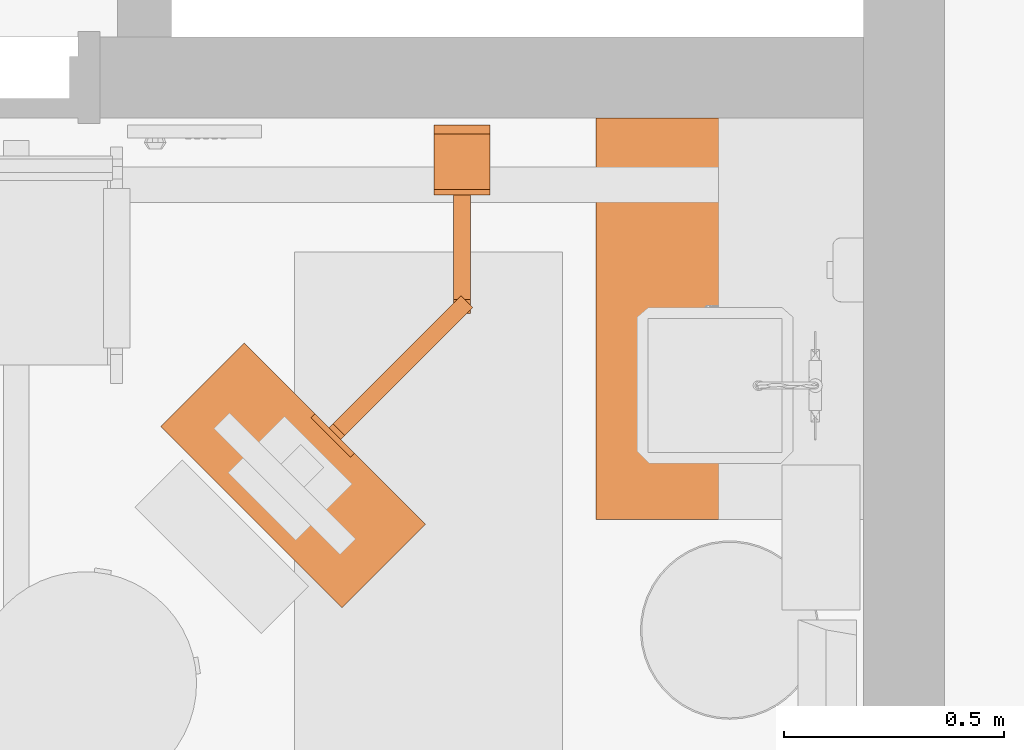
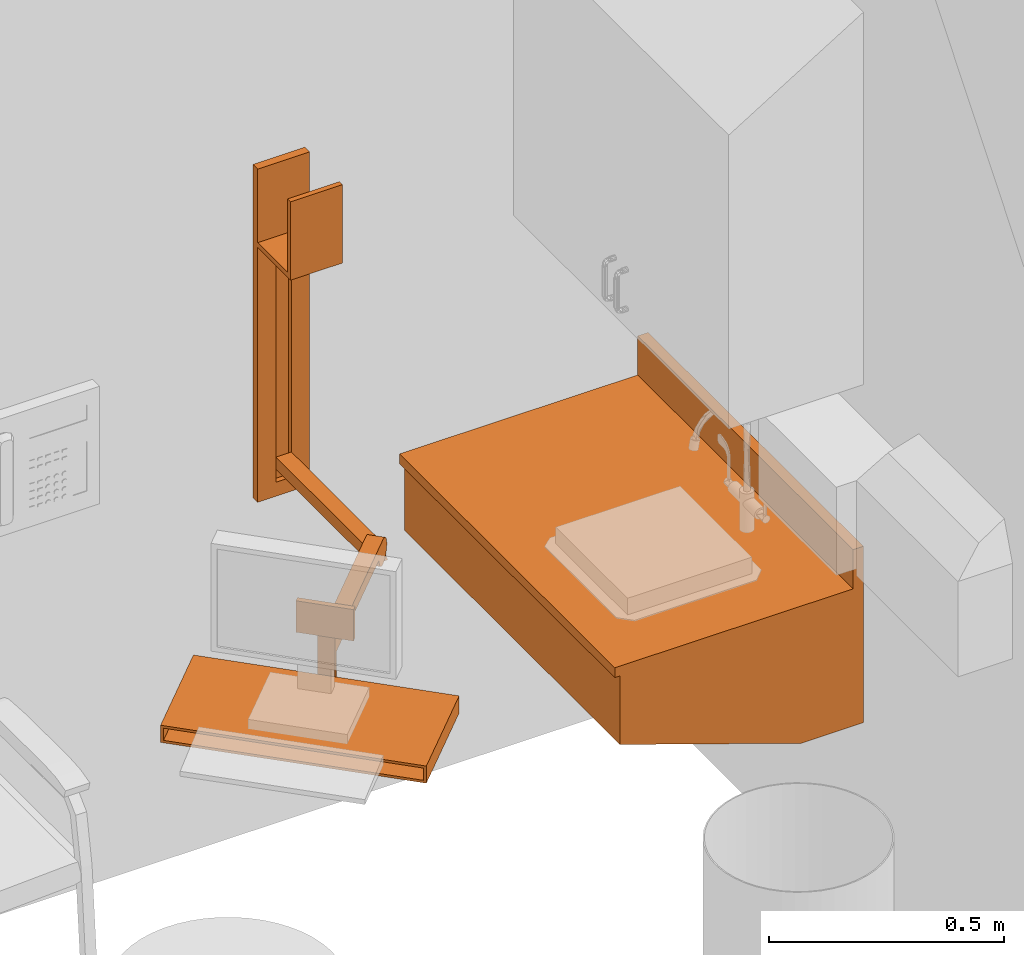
# One storey, part 41 of 142: 2 proxies.
"""IFC2X3 building model written with IfcOpenShell, lengths in feet."""

from ifc_helpers import new_model, entity, si_unit, converted_unit, derived_unit, direction, frame, frame_2d, origin, origin_2d_with_axis, place, context, subcontext, project, spatial, polyline, circle_curve, parameter, trimmed, segment, composite_curve, rectangle, circle, outline, extrude, faceted_brep, source, transform, mapped, type_object, type_shapes, element, save


model = new_model("IFC2X3")

# Units and contexts
model_context = context("Model", 3, precision=0.0001, world=origin(), true_north=direction((6.12303176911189e-17, 1.0)))
body_context = subcontext(model_context, "Body", "Model", "MODEL_VIEW")
ifc_project = project(units=[converted_unit("LENGTHUNIT", "FOOT", entity("IfcRatioMeasure", 0.3048), si_unit("LENGTHUNIT", "METRE"), dimensions=[1, 0, 0, 0, 0, 0, 0]), converted_unit("AREAUNIT", "SQUARE FOOT", entity("IfcRatioMeasure", 0.09290304), si_unit("AREAUNIT", "SQUARE_METRE"), dimensions=[2, 0, 0, 0, 0, 0, 0]), converted_unit("VOLUMEUNIT", "CUBIC FOOT", entity("IfcRatioMeasure", 0.028316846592), si_unit("VOLUMEUNIT", "CUBIC_METRE"), dimensions=[3, 0, 0, 0, 0, 0, 0]), converted_unit("PLANEANGLEUNIT", "DEGREE", entity("IfcRatioMeasure", 0.0174532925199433), si_unit("PLANEANGLEUNIT", "RADIAN"), dimensions=[0, 0, 0, 0, 0, 0, 0]), si_unit("MASSUNIT", "GRAM", prefix="KILO"), derived_unit("MASSDENSITYUNIT", [(si_unit("MASSUNIT", "GRAM", prefix="KILO"), 1), (si_unit("LENGTHUNIT", "METRE"), -3)]), si_unit("TIMEUNIT", "SECOND"), si_unit("FREQUENCYUNIT", "HERTZ"), si_unit("THERMODYNAMICTEMPERATUREUNIT", "DEGREE_CELSIUS"), derived_unit("THERMALTRANSMITTANCEUNIT", [(si_unit("MASSUNIT", "GRAM", prefix="KILO"), 1), (si_unit("THERMODYNAMICTEMPERATUREUNIT", "KELVIN"), -1), (si_unit("TIMEUNIT", "SECOND"), -3)]), derived_unit("VOLUMETRICFLOWRATEUNIT", [(si_unit("LENGTHUNIT", "METRE"), 3), (si_unit("TIMEUNIT", "SECOND"), -1)]), si_unit("ELECTRICCURRENTUNIT", "AMPERE"), si_unit("ELECTRICVOLTAGEUNIT", "VOLT"), si_unit("POWERUNIT", "WATT"), si_unit("FORCEUNIT", "NEWTON"), si_unit("ILLUMINANCEUNIT", "LUX"), si_unit("LUMINOUSFLUXUNIT", "LUMEN"), si_unit("LUMINOUSINTENSITYUNIT", "CANDELA"), derived_unit("USERDEFINED", [(si_unit("MASSUNIT", "GRAM", prefix="KILO"), -1), (si_unit("LENGTHUNIT", "METRE"), -2), (si_unit("TIMEUNIT", "SECOND"), 3), (si_unit("LUMINOUSFLUXUNIT", "LUMEN"), 1)]), derived_unit("LINEARVELOCITYUNIT", [(si_unit("LENGTHUNIT", "METRE"), 1), (si_unit("TIMEUNIT", "SECOND"), -1)]), si_unit("PRESSUREUNIT", "PASCAL"), derived_unit("USERDEFINED", [(si_unit("LENGTHUNIT", "METRE"), -2), (si_unit("MASSUNIT", "GRAM", prefix="KILO"), 1), (si_unit("TIMEUNIT", "SECOND"), -2)])], contexts=[model_context])

# Site, building, storey, space
site_placement = place(None, origin())
site = spatial("IfcSite", under=ifc_project, at=site_placement, Name="Default", CompositionType="ELEMENT")
building_placement = place(site_placement, origin())
building = spatial("IfcBuilding", under=site, at=building_placement, Name="OUTPATIENT / PACT CLINIC (Ch. 265)", CompositionType="ELEMENT")
storey_placement = place(building_placement, origin())
storey = spatial("IfcBuildingStorey", under=building, at=storey_placement, Name="LEVEL 1", CompositionType="ELEMENT", Elevation=0.0)
space_placement = place(storey_placement, origin())
space = spatial("IfcSpace", under=storey, at=space_placement, Name="EXW01", CompositionType="ELEMENT", InteriorOrExteriorSpace="INTERNAL")

# Proxies
building_element_proxy_type_1 = type_object("IfcBuildingElementProxyType", Name="M1803 - Workstation, Computer, Wall Mounted", PredefinedType="NOTDEFINED")
shared_shape_1 = source(origin(), body_context, "Body", "SweptSolid", [
    extrude(circle(Radius=0.104166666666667, at=frame_2d((1.0547118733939e-15, 3.336446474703e-16), x_axis=(1.0, 0.0))), frame((-0.0810226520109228, -1.34888430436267, 0.333333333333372), z_axis=(0.707106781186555, -0.70710678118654, 0.0), x_axis=(0.0, 0.0, 1.0)), (0.0, 0.0, 1.0), 0.125000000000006),
    extrude(outline(composite_curve([segment(polyline([(0.0520833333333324, -0.592708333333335), (0.0520833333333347, 0.644791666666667)]), True, "CONTINUOUS"), segment(polyline([(0.0520833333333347, 0.644791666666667), (-0.0520833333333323, 0.644791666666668)]), True, "CONTINUOUS"), segment(polyline([(-0.0520833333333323, 0.644791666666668), (-0.0520833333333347, -0.696875)]), True, "CONTINUOUS"), segment(trimmed(circle_curve(frame_2d((0.0520833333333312, -0.696875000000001), x_axis=(1.0, 0.0)), 0.104166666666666), [parameter(89.9999999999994)], [parameter(180.0)], True, "PARAMETER"), False, "CONTINUOUS")], self_intersect=False)), frame((-0.0624999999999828, -0.711458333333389, 0.281250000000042), z_axis=(-1.0, 0.0, 0.0), x_axis=(0.0, 0.0, 1.0)), (0.0, 0.0, -1.0), 0.125000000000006),
    extrude(outline(composite_curve([segment(polyline([(0.0520833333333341, -0.651041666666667), (0.0520833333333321, 0.598958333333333)]), True, "CONTINUOUS"), segment(polyline([(0.0520833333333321, 0.598958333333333), (-0.0520833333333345, 0.598958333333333)]), True, "CONTINUOUS"), segment(polyline([(-0.0520833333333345, 0.598958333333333), (-0.0520833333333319, -0.546875)]), True, "CONTINUOUS"), segment(trimmed(circle_curve(frame_2d((-0.0520833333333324, -0.651041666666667), x_axis=(1.0, 0.0)), 0.104166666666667), [parameter(1.01777749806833e-13)], [parameter(90.0000000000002)], True, "PARAMETER"), False, "CONTINUOUS")], self_intersect=False)), frame((-0.452990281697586, -1.89762862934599, 0.385416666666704), z_axis=(0.707106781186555, -0.70710678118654, 0.0), x_axis=(0.0, 0.0, 1.0)), (0.0, 0.0, -1.0), 0.125000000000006),
    extrude(outline(polyline([(-0.0729166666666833, -0.95833333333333), (0.0729166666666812, -0.95833333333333), (0.0729166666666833, 0.95833333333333), (-0.0729166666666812, 0.95833333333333), (-0.0729166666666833, -0.95833333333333)]), holes=[polyline([(-0.05208333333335, -0.937499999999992), (-0.052083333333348, 0.937499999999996), (0.0520833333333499, 0.937499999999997), (0.0520833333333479, -0.937499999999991), (-0.05208333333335, -0.937499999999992)])]), frame((-1.5747857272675, -2.93103572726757, 0.0729166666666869), z_axis=(0.707106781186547, 0.707106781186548, 0.0), x_axis=(0.0, 0.0, -1.0)), (0.0, 0.0, 1.0), 0.883333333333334),
    extrude(rectangle(XDim=0.0666666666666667, YDim=0.416666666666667, at=origin_2d_with_axis()), frame((0.0, -0.0333333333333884, 0.0), z_axis=(0.0, 0.0, 1.0), x_axis=(0.0, 1.0, 0.0)), (0.0, 0.0, 1.0), 0.11949518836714),
    extrude(outline(polyline([(-0.208333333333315, -0.0270833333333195), (-0.0625000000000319, -0.0270833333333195), (-0.0625000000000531, 0.014583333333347), (0.0625000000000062, 0.014583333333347), (0.0625000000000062, -0.0270833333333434), (0.208333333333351, -0.0270833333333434), (0.208333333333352, 0.0395833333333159), (-0.208333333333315, 0.0395833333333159), (-0.208333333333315, -0.0270833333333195)])), frame((0.0, -0.0395833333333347, 0.119495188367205)), (0.0, 0.0, 1.0), 2.0471714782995),
    extrude(outline(polyline([(-0.194444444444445, 0.125), (0.430555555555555, 0.125), (0.430555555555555, 0.166666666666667), (-0.236111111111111, 0.166666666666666), (-0.236111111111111, -0.291666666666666), (-0.194444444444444, -0.291666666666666), (-0.194444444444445, 0.125)])), frame((-0.208333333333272, -0.358333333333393, 2.40277777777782), z_axis=(1.0, 0.0, 0.0), x_axis=(0.0, 0.0, 1.0)), (0.0, 0.0, 1.0), 0.416666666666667),
    extrude(rectangle(XDim=0.0416666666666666, YDim=0.416666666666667, at=frame_2d((4.16333634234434e-17, -5.55111512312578e-17), x_axis=(1.0, 0.0))), frame((-0.964906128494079, -2.3211561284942, 0.503601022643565), z_axis=(0.0, 0.0, 1.0), x_axis=(0.707106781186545, 0.70710678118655, 0.0)), (0.0, 0.0, 1.0), 0.267232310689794),
    extrude(rectangle(XDim=0.125000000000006, YDim=0.0416666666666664, at=frame_2d((-1.94289029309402e-16, 1.16226472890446e-16), x_axis=(1.0, 0.0))), frame((-0.935443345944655, -2.29169334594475, 0.0), z_axis=(0.0, 0.0, 1.0), x_axis=(-0.707106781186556, 0.70710678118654, 0.0)), (0.0, 0.0, 1.0), 0.666666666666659),
    extrude(rectangle(XDim=0.0666666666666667, YDim=0.416666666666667, at=origin_2d_with_axis()), frame((0.0, -0.0333333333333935, 2.16666666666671), z_axis=(0.0, 0.0, 1.0), x_axis=(0.0, 1.0, 0.0)), (0.0, 0.0, 1.0), 0.666666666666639),
])
type_shapes(building_element_proxy_type_1, [shared_shape_1])
proxy_1_placement = place(space_placement, frame((444.754977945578, -942.701739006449, 2.87499999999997)))
element("IfcBuildingElementProxy", 1, at=proxy_1_placement, inside=space, type_object=building_element_proxy_type_1, Name="M1803 - Workstation, Computer, Wall Mounted1:M1803 - Workstation, Computer, Wall Mounted", ObjectType="M1803 - Workstation, Computer, Wall Mounted", context=body_context, shape_type="MappedRepresentation", body=[
    mapped(shared_shape_1, transform((0.0, 0.0, 0.0), scale=1.0)),
])
building_element_proxy_type_2 = type_object("IfcBuildingElementProxyType", Name="CT020 - Countertop, Solid Surface", PredefinedType="NOTDEFINED")
shared_shape_2 = source(origin(), body_context, "Body", "Brep", [
    faceted_brep([(-1.50000000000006, -0.874999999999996, 0.0), (-1.50000000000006, -0.874999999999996, -0.528571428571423), (-1.50000000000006, 0.500000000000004, -1.0), (-1.50000000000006, 1.0, -1.0), (-1.50000000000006, 1.0, -1.08333333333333), (-1.50000000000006, 0.500000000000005, -1.08333333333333), (-1.50000000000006, -0.958333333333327, -0.583333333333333), (-1.50000000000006, -0.958333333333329, 0.0), (1.41666666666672, -0.875, 0.0), (1.41666666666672, -0.875, -0.528571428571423), (1.50000000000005, -0.958333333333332, 0.0), (1.50000000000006, -0.958333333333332, -0.583333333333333), (1.50000000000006, 1.0, 0.0), (1.41666666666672, 1.0, 0.0), (1.41666666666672, 1.0, -1.0), (1.41666666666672, 0.499999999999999, -1.0), (1.50000000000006, 0.499999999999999, -1.08333333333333), (1.50000000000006, 1.0, -1.08333333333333)], [[[0, 1, 2, 3, 4, 5, 6, 7]], [[1, 0, 8, 9]], [[10, 7, 6, 11]], [[0, 7, 10, 12, 13, 8]], [[13, 14, 15, 9, 8]], [[12, 10, 11, 16, 17]], [[14, 13, 12, 17, 4, 3]], [[2, 1, 9, 15]], [[6, 5, 16, 11]], [[17, 16, 5, 4]], [[3, 2, 15, 14]]]),
    faceted_brep([(-1.50000000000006, 0.91666666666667, 0.416666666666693), (-1.50000000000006, 1.0, 0.416666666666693), (-1.50000000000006, 1.0, 0.0833333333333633), (-1.50000000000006, 0.91666666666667, 0.0833333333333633), (1.50000000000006, 0.916666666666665, 0.416666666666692), (1.50000000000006, 0.916666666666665, 0.0833333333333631), (1.50000000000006, 1.0, 0.0833333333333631), (1.50000000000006, 1.0, 0.416666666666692)], [[[0, 1, 2, 3]], [[4, 5, 6, 7]], [[1, 0, 4, 7]], [[2, 1, 7, 6]], [[3, 2, 6, 5]], [[0, 3, 5, 4]]]),
    faceted_brep([(1.50000000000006, 1.0, 0.0833333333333), (-1.50000000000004, 1.0, 0.0833333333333), (-1.50000000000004, -1.0, 0.0833333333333), (1.50000000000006, -1.0, 0.0833333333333), (1.50000000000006, 1.0, 0.0), (1.50000000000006, -1.0, 0.0), (-1.50000000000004, -1.0, 0.0), (-1.50000000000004, 1.0, 0.0)], [[[0, 1, 2, 3]], [[4, 5, 6, 7]], [[1, 0, 4, 7]], [[2, 1, 7, 6]], [[3, 2, 6, 5]], [[0, 3, 5, 4]]]),
    faceted_brep([(-1.5, 1.0, 0.0833333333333), (-1.5, 0.0, 0.0833333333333), (-1.5, -1.0, 0.0833333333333), (1.5, -1.0, 0.0833333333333), (1.5, 1.0, 0.0833333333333), (-1.5, 1.0, 0.0), (1.5, 1.0, 0.0), (1.5, -1.0, 0.0), (-1.5, -1.0, 0.0), (-1.5, 0.0, 0.0)], [[[0, 1, 2, 3, 4]], [[5, 6, 7, 8, 9]], [[1, 0, 5, 9]], [[2, 1, 9, 8]], [[3, 2, 8, 7]], [[4, 3, 7, 6]], [[0, 4, 6, 5]]]),
])
type_shapes(building_element_proxy_type_2, [shared_shape_2])
proxy_2_placement = place(space_placement, frame((446.754977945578, -944.149655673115, 2.70833333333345), z_axis=(0.0, 0.0, 1.0), x_axis=(0.0, -1.0, 0.0)))
element("IfcBuildingElementProxy", 2, at=proxy_2_placement, inside=space, type_object=building_element_proxy_type_2, Name="CT020 - Countertop, Solid Surface:CT020 - Countertop, Solid Surface", ObjectType="CT020 - Countertop, Solid Surface", context=body_context, shape_type="MappedRepresentation", body=[
    mapped(shared_shape_2, transform((0.0, 0.0, 0.0), scale=1.0)),
])

save(model, "model.ifc")
